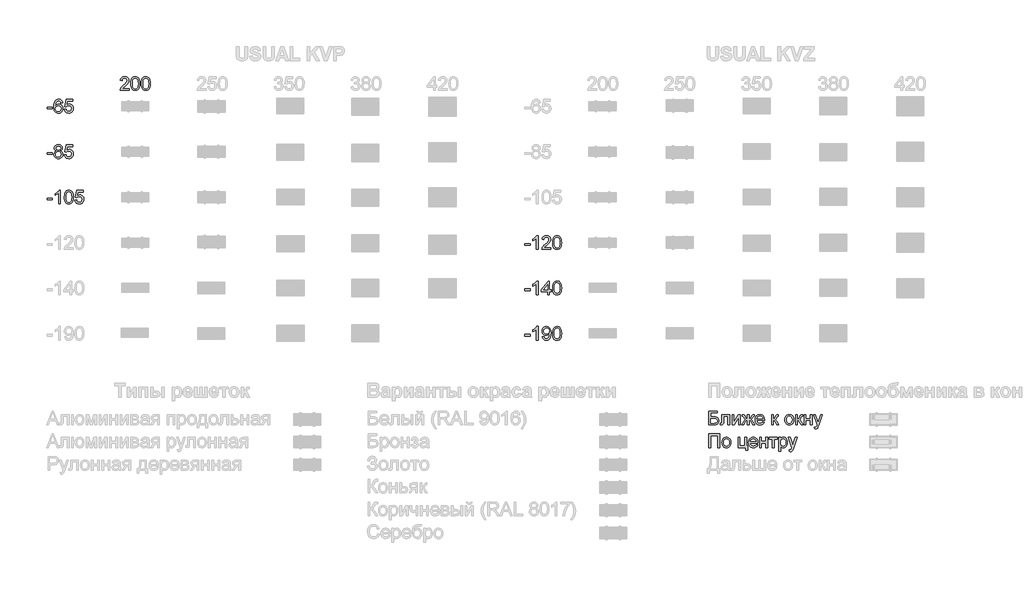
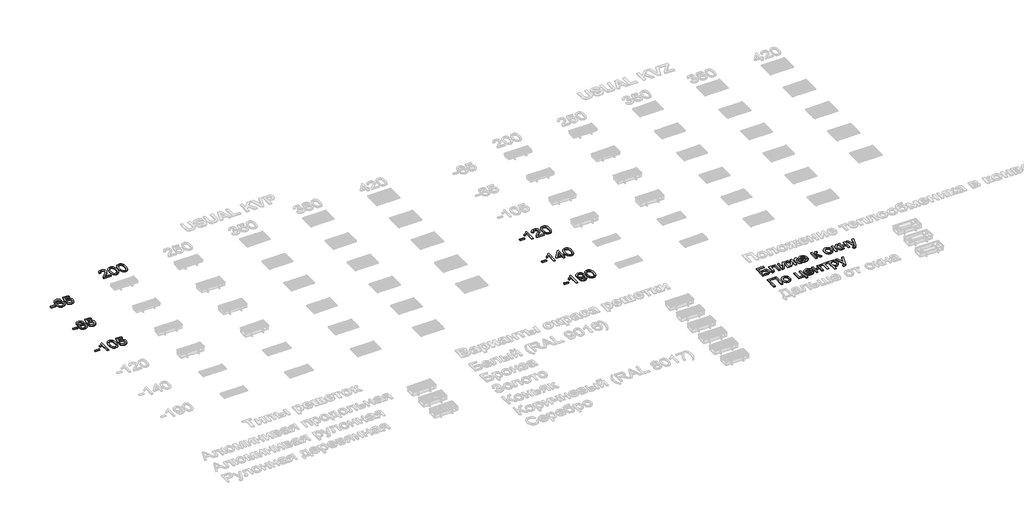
# One storey, part 8 of 12: 9 proxies.
"""IFC4 building model written with IfcOpenShell, lengths in millimetres."""

from ifc_helpers import new_model, si_unit, origin, origin_with_axes, place, context, project, spatial, polyline, outline, extrude, element, save

model = new_model("IFC4")

# Units and contexts
model_context = context("Model", 3, world=origin())
ifc_project = project(units=[si_unit("LENGTHUNIT", "METRE", prefix="MILLI")], contexts=[model_context])

# Site, building, storey
site = spatial("IfcSite", under=ifc_project)
building = spatial("IfcBuilding", under=site)
storey = spatial("IfcBuildingStorey", under=building, Name="Уровень 1", Elevation=0.0)

# Proxies
placement = place(None, origin())
element("IfcBuildingElementProxy", 1, Name="300", ObjectType="300", at=placement, inside=storey, context=model_context, shape_type="SweptSolid", body=[
    extrude(outline(polyline([(40.1853532, -5963.6447251), (40.1853532, -5925.9736087), (157.9075917, -5925.9736087), (157.9075917, -5963.6447251), (40.1853532, -5963.6447251)])), origin_with_axes(), (0.0, 0.0, 1.0), 20.0),
    extrude(outline(polyline([(383.9342895, -5831.795818), (346.2631732, -5836.5047075), (340.1931203, -5817.8346963), (331.9893518, -5805.0875851), (314.9012331, -5793.3337554), (294.2446591, -5789.4158121), (276.7334761, -5791.6966805), (260.2523628, -5798.5392856), (246.098103, -5812.9510628), (234.5374113, -5832.7890994), (226.7291159, -5860.8492985), (223.8320452, -5899.9275635), (238.9427982, -5882.2968189), (257.0517894, -5869.8716045), (277.1473434, -5862.5047675), (298.2177847, -5860.0491552), (316.3175788, -5861.7276168), (333.0194214, -5866.7630016), (348.3233124, -5875.1553096), (362.2292518, -5886.9045409), (373.785345, -5901.3117195), (382.0396973, -5917.6778698), (386.9923086, -5936.0029916), (388.6431791, -5956.2870851), (385.5345762, -5983.2620324), (376.2087676, -6008.2688111), (361.4383055, -6029.4772081), (341.9957421, -6045.0570106), (318.7639941, -6054.6311395), (292.6259783, -6057.8225158), (270.1690818, -6055.7071943), (249.8872875, -6049.3612299), (231.7805956, -6038.7846226), (215.8490059, -6023.9773723), (202.8604722, -6004.3140796), (193.5829482, -5979.1693452), (188.0164337, -5948.5431691), (186.1609289, -5912.4355513), (188.2210681, -5871.9547363), (194.4014856, -5837.4060184), (204.7021815, -5808.7893977), (219.1231557, -5786.1048742), (234.753542, -5771.0722962), (252.8763287, -5760.3347404), (273.4915161, -5753.892207), (296.5991039, -5751.7446958), (329.6533011, -5757.0605907), (356.1224107, -5773.0082752), (374.6636633, -5798.3369505), (383.9342895, -5831.795818)]), holes=[polyline([(223.8320452, -5955.698474), (226.011746, -5972.3911195), (232.5508485, -5988.3296069), (242.7043916, -6002.0332112), (255.7274142, -6012.0212074), (271.4451725, -6018.1188515), (289.6829224, -6020.1513995), (314.5425482, -6015.9391507), (334.0862792, -6003.3024041), (346.7506169, -5983.4367764), (350.9720628, -5957.5378839), (346.8057992, -5932.6782581), (334.3070084, -5913.7231383), (314.4321836, -5901.7209882), (288.137818, -5897.7202715), (263.3149804, -5901.7209882), (242.5572388, -5913.7231383), (228.5133436, -5932.2184056), (223.8320452, -5955.698474)])]), origin_with_axes(), (0.0, 0.0, 1.0), 20.0),
    extrude(outline(polyline([(421.6054058, -5973.0625041), (459.2765221, -5968.3536146), (466.1927037, -5990.9691602), (478.2592331, -6007.1651651), (495.4209282, -6016.9048409), (517.6226066, -6020.1513995), (544.625145, -6015.635648), (564.8586548, -6002.0883935), (577.4954013, -5981.0731346), (581.7076501, -5954.1533696), (577.7621157, -5928.8063001), (565.9255125, -5909.418919), (546.1058701, -5897.1132662), (518.2112178, -5893.011382), (499.9366797, -5894.6484569), (485.1386264, -5899.5596815), (463.9854117, -5916.5558297), (426.3142954, -5911.8469401), (459.2765221, -5756.4535854), (605.2520978, -5756.4535854), (605.2520978, -5794.1247017), (489.7371513, -5794.1247017), (473.62392, -5877.1188798), (500.5344879, -5860.7849192), (528.7326428, -5855.3402657), (547.0784581, -5857.0279243), (563.9297527, -5862.0909003), (579.2865268, -5870.5291935), (593.1487802, -5882.3428041), (604.6243992, -5896.8097636), (612.8212699, -5913.2081035), (617.7393923, -5931.5378239), (619.3787664, -5951.7989248), (613.4742604, -5989.4700411), (606.0936279, -6006.2638542), (595.7607424, -6021.6965039), (580.1073635, -6037.5016341), (561.8420224, -6048.7910128), (540.9647192, -6055.5646401), (517.4754538, -6057.8225158), (480.4757221, -6052.0191773), (464.7970513, -6044.7650043), (450.9991772, -6034.6091619), (439.5189597, -6022.0574881), (430.7932587, -6007.6158205), (421.6054058, -5973.0625041)])), origin_with_axes(), (0.0, 0.0, 1.0), 20.0),
])
element("IfcBuildingElementProxy", 2, Name="300", ObjectType="300", at=placement, inside=storey, context=model_context, shape_type="SweptSolid", body=[
    extrude(outline(polyline([(40.1853532, -6963.6447251), (40.1853532, -6925.9736087), (157.9075917, -6925.9736087), (157.9075917, -6963.6447251), (40.1853532, -6963.6447251)])), origin_with_axes(), (0.0, 0.0, 1.0), 20.0),
    extrude(outline(polyline([(245.7578121, -6887.1252701), (225.5886818, -6877.1924562), (211.434422, -6863.7279752), (203.0743037, -6847.0077385), (200.2875975, -6827.3076576), (201.8051108, -6811.9439858), (206.3576505, -6797.8587039), (213.9452166, -6785.051812), (224.5678092, -6773.5233099), (237.714992, -6763.9951663), (252.8763287, -6757.1893494), (289.241464, -6751.7446958), (325.8273284, -6757.3181081), (341.154212, -6764.2848733), (354.5037299, -6774.0383447), (365.3194606, -6785.7921745), (373.0449825, -6798.7600148), (377.6802956, -6812.9418657), (379.2254, -6828.3377272), (376.4754821, -6847.4032116), (368.2257283, -6863.8383398), (354.3841683, -6877.2200473), (334.8588314, -6887.1252701), (358.0445941, -6899.0722378), (374.9211806, -6916.6661943), (385.2126795, -6939.0610107), (388.6431791, -6965.4105586), (386.9417248, -6984.2001315), (381.8373622, -7001.426206), (373.330091, -7017.0887819), (361.4199114, -7031.1878594), (346.7322228, -7042.8405216), (329.8924244, -7051.1638517), (310.9005164, -7056.1578498), (289.7564988, -7057.8225158), (268.6124811, -7056.150952), (249.6205731, -7051.1362606), (232.7807748, -7042.7784415), (218.0930861, -7031.0774948), (206.1829065, -7016.879549), (197.6756354, -7001.0307328), (192.5712727, -6983.5310462), (190.8698185, -6964.380489), (194.4382738, -6937.0100686), (205.1436399, -6914.4956905), (222.4340936, -6897.6099069), (245.7578121, -6887.1252701)]), holes=[polyline([(237.9587138, -6828.4113036), (241.2972429, -6844.8556288), (251.3128303, -6857.989016), (267.7111702, -6866.5974547), (290.1979572, -6869.4669343), (312.1605123, -6866.6158488), (328.3105319, -6858.0625924), (338.2433457, -6845.3706636), (341.5542837, -6830.1035608), (338.1329811, -6814.2570439), (327.8690735, -6801.1512478), (311.4983247, -6792.349671), (289.7564988, -6789.4158121), (267.8767171, -6792.2852917), (251.5335595, -6800.8937304), (241.3524252, -6813.5120828), (237.9587138, -6828.4113036)]), polyline([(228.5409348, -6963.0561139), (234.8317169, -6991.4198157), (243.5413231, -7003.5875127), (257.0885776, -7012.6466068), (273.3121736, -7018.2752013), (290.0508044, -7020.1513995), (315.6921794, -7016.2058651), (334.9324078, -7004.3692619), (346.962149, -6986.4442117), (350.9720628, -6964.2333362), (346.8333903, -6941.6453817), (334.417373, -6923.3248584), (314.7356862, -6911.1847525), (288.8000056, -6907.1380506), (263.5173155, -6911.1295702), (244.4702252, -6923.1041292), (232.5232574, -6941.0751646), (228.5409348, -6963.0561139)])]), origin_with_axes(), (0.0, 0.0, 1.0), 20.0),
    extrude(outline(polyline([(421.6054058, -6973.0625041), (459.2765221, -6968.3536146), (466.1927037, -6990.9691602), (478.2592331, -7007.1651651), (495.4209282, -7016.9048409), (517.6226066, -7020.1513995), (544.625145, -7015.635648), (564.8586548, -7002.0883935), (577.4954013, -6981.0731346), (581.7076501, -6954.1533696), (577.7621157, -6928.8063001), (565.9255125, -6909.418919), (546.1058701, -6897.1132662), (518.2112178, -6893.011382), (499.9366797, -6894.6484569), (485.1386264, -6899.5596815), (463.9854117, -6916.5558297), (426.3142954, -6911.8469401), (459.2765221, -6756.4535854), (605.2520978, -6756.4535854), (605.2520978, -6794.1247017), (489.7371513, -6794.1247017), (473.62392, -6877.1188798), (500.5344879, -6860.7849192), (528.7326428, -6855.3402657), (547.0784581, -6857.0279243), (563.9297527, -6862.0909003), (579.2865268, -6870.5291935), (593.1487802, -6882.3428041), (604.6243992, -6896.8097636), (612.8212699, -6913.2081035), (617.7393923, -6931.5378239), (619.3787664, -6951.7989248), (613.4742604, -6989.4700411), (606.0936279, -7006.2638542), (595.7607424, -7021.6965039), (580.1073635, -7037.5016341), (561.8420224, -7048.7910128), (540.9647192, -7055.5646401), (517.4754538, -7057.8225158), (480.4757221, -7052.0191773), (464.7970513, -7044.7650043), (450.9991772, -7034.6091619), (439.5189597, -7022.0574881), (430.7932587, -7007.6158205), (421.6054058, -6973.0625041)])), origin_with_axes(), (0.0, 0.0, 1.0), 20.0),
])
element("IfcBuildingElementProxy", 3, Name="300", ObjectType="300", at=placement, inside=storey, context=model_context, shape_type="SweptSolid", body=[
    extrude(outline(polyline([(40.1853532, -7963.6447251), (40.1853532, -7925.9736087), (157.9075917, -7925.9736087), (157.9075917, -7963.6447251), (40.1853532, -7963.6447251)])), origin_with_axes(), (0.0, 0.0, 1.0), 20.0),
    extrude(outline(polyline([(332.1365046, -8053.1136263), (294.4653883, -8053.1136263), (294.4653883, -7818.2577606), (258.7808348, -7843.6784064), (219.1231557, -7862.6979056), (219.1231557, -7827.0869284), (248.7100652, -7810.9920912), (274.3422432, -7791.8438333), (294.5481618, -7771.4815649), (307.8562929, -7751.7446958), (332.1365046, -7751.7446958), (332.1365046, -8053.1136263)])), origin_with_axes(), (0.0, 0.0, 1.0), 20.0),
    extrude(outline(polyline([(421.6054058, -7904.8571822), (424.3737178, -7856.6186556), (432.6786539, -7818.147396), (446.4374405, -7788.8547921), (465.5673043, -7768.1522328), (490.2062009, -7755.8465801), (520.4920861, -7751.7446958), (543.70544, -7754.172717), (564.4907728, -7761.4567805), (581.873197, -7773.3117778), (594.8778256, -7789.4526003), (604.7002748, -7809.7412924), (612.5361613, -7834.0398982), (617.6681152, -7864.8960005), (619.3787664, -7904.8571822), (616.6380456, -7952.8197973), (608.415883, -7991.1990865), (594.7398698, -8020.5192815), (575.6375972, -8041.3046142), (550.9435183, -8053.6930404), (520.4920861, -8057.8225158), (499.7435416, -8056.0290911), (481.3494419, -8050.6488169), (465.3097869, -8041.6816933), (451.6245766, -8029.1277202), (438.4911894, -8006.4339996), (429.1101985, -7978.1576698), (423.481604, -7944.2987306), (421.6054058, -7904.8571822)]), holes=[polyline([(459.2765221, -7904.7836058), (463.6911061, -7964.0401982), (469.209336, -7984.3081969), (476.9348579, -7998.3359972), (496.6533329, -8014.6975489), (520.4920861, -8020.1513995), (544.3308394, -8014.6791548), (564.0493144, -7998.2624208), (571.7748363, -7984.2116278), (577.2930662, -7963.9482277), (581.7076501, -7904.7836058), (577.440219, -7846.8605857), (572.1059301, -7826.6592656), (564.6379256, -7812.2980722), (544.9562388, -7795.1363772), (520.0506277, -7789.4158121), (496.4693919, -7794.4557955), (477.5234691, -7809.5757455), (469.5404298, -7825.2107303), (463.8382589, -7846.2903686), (459.2765221, -7904.7836058)])]), origin_with_axes(), (0.0, 0.0, 1.0), 20.0),
    extrude(outline(polyline([(652.3409932, -7973.0625041), (690.0121095, -7968.3536146), (696.928291, -7990.9691602), (708.9948205, -8007.1651651), (726.1565155, -8016.9048409), (748.358194, -8020.1513995), (775.3607324, -8015.635648), (795.5942421, -8002.0883935), (808.2309887, -7981.0731346), (812.4432375, -7954.1533696), (808.4977031, -7928.8063001), (796.6610999, -7909.418919), (776.8414574, -7897.1132662), (748.9468051, -7893.011382), (730.672267, -7894.6484569), (715.8742138, -7899.5596815), (694.7209991, -7916.5558297), (657.0498827, -7911.8469401), (690.0121095, -7756.4535854), (835.9876852, -7756.4535854), (835.9876852, -7794.1247017), (720.4727387, -7794.1247017), (704.3595073, -7877.1188798), (731.2700753, -7860.7849192), (759.4682302, -7855.3402657), (777.8140455, -7857.0279243), (794.6653401, -7862.0909003), (810.0221141, -7870.5291935), (823.8843676, -7882.3428041), (835.3599865, -7896.8097636), (843.5568573, -7913.2081035), (848.4749797, -7931.5378239), (850.1143538, -7951.7989248), (844.2098478, -7989.4700411), (836.8292153, -8006.2638542), (826.4963297, -8021.6965039), (810.8429508, -8037.5016341), (792.5776098, -8048.7910128), (771.7003065, -8055.5646401), (748.2110412, -8057.8225158), (711.2113095, -8052.0191773), (695.5326387, -8044.7650043), (681.7347646, -8034.6091619), (670.2545471, -8022.0574881), (661.528846, -8007.6158205), (652.3409932, -7973.0625041)])), origin_with_axes(), (0.0, 0.0, 1.0), 20.0),
])
element("IfcBuildingElementProxy", 4, Name="300", ObjectType="300", at=placement, inside=storey, context=model_context, shape_type="SweptSolid", body=[
    extrude(outline(polyline([(1845.4054643, -5516.6857315), (1845.4054643, -5554.3568478), (1647.6321037, -5554.3568478), (1651.6788056, -5528.384379), (1660.967826, -5508.0864899), (1674.5610657, -5488.3956061), (1694.2243584, -5467.7850173), (1721.7235375, -5444.7280133), (1762.374498, -5408.6203954), (1786.7650742, -5381.9673449), (1798.9603624, -5360.3358836), (1803.0254584, -5339.2930334), (1799.1902886, -5320.4298841), (1787.6847792, -5304.7489141), (1769.9988523, -5294.1815038), (1747.62243, -5290.6590337), (1724.1239675, -5294.0987303), (1705.8678235, -5304.4178203), (1694.0864026, -5320.8069632), (1690.0121095, -5342.4568186), (1652.3409932, -5337.7479291), (1661.4736637, -5301.3092174), (1670.0200223, -5286.7732801), (1681.2197298, -5274.6929551), (1694.8152688, -5265.1970011), (1710.5491219, -5258.4141768), (1748.4317704, -5252.9879174), (1768.6215941, -5254.4962336), (1786.5903303, -5259.0211821), (1802.337979, -5266.562763), (1815.8645401, -5277.1209763), (1826.7285552, -5289.9140726), (1834.4885661, -5304.1603029), (1839.1445726, -5319.8596671), (1840.6965747, -5337.0121651), (1839.0227117, -5355.0291858), (1834.0011224, -5372.7335068), (1825.0891811, -5390.7413305), (1811.7442617, -5409.6688591), (1790.4714853, -5432.2660107), (1757.775973, -5461.282703), (1714.439474, -5497.5190796), (1697.4433258, -5516.6857315), (1845.4054643, -5516.6857315)])), origin_with_axes(), (0.0, 0.0, 1.0), 20.0),
    extrude(outline(polyline([(1883.0765806, -5406.1004038), (1885.8448926, -5357.8618772), (1894.1498286, -5319.3906175), (1907.9086153, -5290.0980136), (1927.038479, -5269.3954544), (1951.6773756, -5257.0898016), (1981.9632609, -5252.9879174), (2005.1766148, -5255.4159385), (2025.9619475, -5262.700002), (2043.3443718, -5274.5549993), (2056.3490003, -5290.6958219), (2066.1714496, -5310.9845139), (2074.0073361, -5335.2831197), (2079.1392899, -5366.139222), (2080.8499412, -5406.1004038), (2078.1092203, -5454.0630189), (2069.8870577, -5492.442308), (2056.2110446, -5521.7625031), (2037.108772, -5542.5478358), (2012.414693, -5554.936262), (1981.9632609, -5559.0657374), (1961.2147164, -5557.2723126), (1942.8206166, -5551.8920385), (1926.7809616, -5542.9249148), (1913.0957514, -5530.3709417), (1899.9623642, -5507.6772212), (1890.5813733, -5479.4008913), (1884.9527788, -5445.5419522), (1883.0765806, -5406.1004038)]), holes=[polyline([(1920.7476969, -5406.0268274), (1925.1622808, -5465.2834197), (1930.6805108, -5485.5514184), (1938.4060327, -5499.5792187), (1958.1245076, -5515.9407705), (1981.9632609, -5521.3946211), (2005.8020142, -5515.9223764), (2025.5204891, -5499.5056423), (2033.246011, -5485.4548494), (2038.7642409, -5465.1914492), (2043.1788249, -5406.0268274), (2038.9113937, -5348.1038072), (2033.5771048, -5327.9024872), (2026.1091003, -5313.5412938), (2006.4274136, -5296.3795987), (1981.5218025, -5290.6590337), (1957.9405666, -5295.699017), (1938.9946439, -5310.818967), (1931.0116046, -5326.4539518), (1925.3094336, -5347.5335901), (1920.7476969, -5406.0268274)])]), origin_with_axes(), (0.0, 0.0, 1.0), 20.0),
    extrude(outline(polyline([(2113.812168, -5406.1004038), (2116.58048, -5357.8618772), (2124.885416, -5319.3906175), (2138.6442026, -5290.0980136), (2157.7740664, -5269.3954544), (2182.412963, -5257.0898016), (2212.6988483, -5252.9879174), (2235.9122022, -5255.4159385), (2256.6975349, -5262.700002), (2274.0799592, -5274.5549993), (2287.0845877, -5290.6958219), (2296.907037, -5310.9845139), (2304.7429235, -5335.2831197), (2309.8748773, -5366.139222), (2311.5855286, -5406.1004038), (2308.8448077, -5454.0630189), (2300.6226451, -5492.442308), (2286.9466319, -5521.7625031), (2267.8443593, -5542.5478358), (2243.1502804, -5554.936262), (2212.6988483, -5559.0657374), (2191.9503037, -5557.2723126), (2173.556204, -5551.8920385), (2157.516549, -5542.9249148), (2143.8313388, -5530.3709417), (2130.6979515, -5507.6772212), (2121.3169607, -5479.4008913), (2115.6883661, -5445.5419522), (2113.812168, -5406.1004038)]), holes=[polyline([(2151.4832843, -5406.0268274), (2155.8978682, -5465.2834197), (2161.4160981, -5485.5514184), (2169.14162, -5499.5792187), (2188.860095, -5515.9407705), (2212.6988483, -5521.3946211), (2236.5376016, -5515.9223764), (2256.2560765, -5499.5056423), (2263.9815984, -5485.4548494), (2269.4998283, -5465.1914492), (2273.9144123, -5406.0268274), (2269.6469811, -5348.1038072), (2264.3126922, -5327.9024872), (2256.8446877, -5313.5412938), (2237.1630009, -5296.3795987), (2212.2573899, -5290.6590337), (2188.676154, -5295.699017), (2169.7302312, -5310.818967), (2161.7471919, -5326.4539518), (2156.045021, -5347.5335901), (2151.4832843, -5406.0268274)])]), origin_with_axes(), (0.0, 0.0, 1.0), 20.0),
])
element("IfcBuildingElementProxy", 5, Name="300", ObjectType="300", at=placement, inside=storey, context=model_context, shape_type="SweptSolid", body=[
    extrude(outline(polyline([(14601.8476281, -12613.7438159), (14790.2032096, -12613.7438159), (14790.2032096, -12651.4149322), (14639.5187444, -12651.4149322), (14639.5187444, -12740.8838335), (14710.078511, -12740.8838335), (14745.1560593, -12742.7968198), (14772.2505682, -12748.535779), (14793.0542951, -12759.5906329), (14809.2594969, -12777.4513038), (14819.6889515, -12800.4439285), (14823.1654364, -12826.8946439), (14820.6914299, -12849.1055194), (14813.2694107, -12869.8264728), (14800.9361668, -12887.9722522), (14783.7284865, -12902.4576057), (14757.1858005, -12911.9489612), (14716.8475398, -12915.1127464), (14601.8476281, -12915.1127464), (14601.8476281, -12613.7438159)]), holes=[polyline([(14639.5187444, -12877.4416301), (14720.2320541, -12877.4416301), (14748.7613028, -12874.3330272), (14769.1603595, -12865.0072186), (14781.4108299, -12849.4642043), (14785.4943201, -12827.7039843), (14783.1582694, -12811.4987824), (14776.1501174, -12798.1998483), (14764.9757018, -12788.3406108), (14750.1408603, -12782.4544989), (14693.3766685, -12778.5549498), (14639.5187444, -12778.5549498), (14639.5187444, -12877.4416301)])]), origin_with_axes(), (0.0, 0.0, 1.0), 20.0),
    extrude(outline(polyline([(14889.0898899, -12693.7949381), (15058.6099133, -12693.7949381), (15058.6099133, -12914.8920172), (15020.938797, -12914.8920172), (15020.938797, -12731.4660544), (14926.7610062, -12731.4660544), (14926.7610062, -12837.048187), (14924.2226204, -12885.7557632), (14919.4677457, -12896.783026), (14910.2798928, -12906.3203667), (14896.3371652, -12912.9146515), (14877.3176661, -12915.1127464), (14846.7098841, -12913.19976), (14846.7098841, -12877.4416301), (14863.5588794, -12877.4416301), (14880.5918158, -12875.1239735), (14887.3976327, -12867.7663336), (14889.0898899, -12834.9144714), (14889.0898899, -12693.7949381)])), origin_with_axes(), (0.0, 0.0, 1.0), 20.0),
    extrude(outline(polyline([(15115.1165877, -12693.7949381), (15152.787704, -12693.7949381), (15152.787704, -12862.5791975), (15245.346814, -12693.7949381), (15294.0543902, -12693.7949381), (15294.0543902, -12915.1127464), (15256.3832739, -12915.1127464), (15256.3832739, -12747.3585566), (15164.4127751, -12915.1127464), (15115.1165877, -12915.1127464), (15115.1165877, -12693.7949381)])), origin_with_axes(), (0.0, 0.0, 1.0), 20.0),
    extrude(outline(polyline([(15487.1188613, -12693.7949381), (15487.1188613, -12787.9727288), (15500.4085983, -12786.0321513), (15509.0814164, -12780.2104187), (15529.8667491, -12739.9273403), (15542.8345894, -12714.8193941), (15554.6619956, -12701.2997308), (15569.0277875, -12695.6711363), (15589.9050907, -12693.7949381), (15604.8410997, -12693.7949381), (15604.8410997, -12731.6867836), (15594.4668275, -12731.4660544), (15575.0426581, -12735.3656035), (15561.5781771, -12759.792968), (15545.9431923, -12786.5747773), (15523.6127552, -12800.1864111), (15536.0057799, -12805.4885103), (15548.2424548, -12814.8465086), (15572.2467549, -12845.7302021), (15614.2588788, -12915.1127464), (15571.0695326, -12915.1127464), (15529.7195963, -12846.6866953), (15518.416422, -12828.7248569), (15508.639958, -12818.2494171), (15498.7531294, -12813.2002367), (15487.1188613, -12811.5171765), (15487.1188613, -12915.1127464), (15449.447745, -12915.1127464), (15449.447745, -12811.5171765), (15437.9054474, -12813.1634485), (15428.0002246, -12818.1022643), (15418.1501842, -12828.5041277), (15406.7734335, -12846.5395425), (15365.4234973, -12915.1127464), (15322.3077274, -12915.1127464), (15364.1726985, -12845.7302021), (15388.3609397, -12814.8465086), (15400.6619939, -12805.4885103), (15413.1010038, -12800.1864111), (15398.7168178, -12792.975924), (15389.4094033, -12785.1768257), (15369.1023172, -12746.5492162), (15359.1695033, -12733.8204992), (15342.9091192, -12731.2453252), (15331.7255065, -12731.4660544), (15331.7255065, -12693.7949381), (15337.3908892, -12693.7949381), (15370.4266924, -12696.1493829), (15387.5699934, -12706.1557731), (15406.7734335, -12739.9273403), (15427.338037, -12779.9529014), (15436.0108551, -12785.967772), (15449.447745, -12787.9727288), (15449.447745, -12693.7949381), (15487.1188613, -12693.7949381)])), origin_with_axes(), (0.0, 0.0, 1.0), 20.0),
    extrude(outline(polyline([(15788.0463333, -12849.1882928), (15824.9816856, -12853.8971824), (15811.6735545, -12881.7274553), (15790.4375663, -12902.5311821), (15761.7519677, -12915.4990225), (15726.0950053, -12919.8216359), (15702.7207031, -12917.9569341), (15681.8939836, -12912.3628285), (15663.614847, -12903.0393192), (15647.8832932, -12889.9864061), (15635.232751, -12873.5673728), (15626.1966495, -12854.1455027), (15620.7749886, -12831.7207959), (15618.9677683, -12806.2932522), (15620.7933827, -12780.0034851), (15626.2702259, -12756.831518), (15635.3982979, -12736.7773507), (15648.1775988, -12719.8409833), (15663.8677658, -12706.3856994), (15681.7284367, -12696.7747822), (15701.7596113, -12691.008232), (15723.9612898, -12689.0860485), (15745.4478975, -12691.0036334), (15764.8789647, -12696.7563881), (15782.2544912, -12706.3443126), (15797.574477, -12719.7674069), (15810.0801656, -12736.6669861), (15819.0128003, -12756.6843652), (15824.3723811, -12779.8195441), (15826.158908, -12806.072523), (15825.9381788, -12816.2260661), (15656.6388846, -12816.2260661), (15663.159593, -12844.424221), (15678.3071342, -12865.1543714), (15700.1685217, -12877.9014826), (15726.8307693, -12882.1505196), (15746.8803381, -12880.1823509), (15763.7661216, -12874.2778449), (15777.4881201, -12864.0691195), (15788.0463333, -12849.1882928)]), holes=[polyline([(15656.6388846, -12778.5549498), (15788.4877917, -12778.5549498), (15783.3926261, -12758.6525338), (15773.4046299, -12744.4155006), (15751.4420748, -12731.1717488), (15723.814137, -12726.7571648), (15698.4210822, -12730.279635), (15677.4242174, -12740.8470453), (15662.8284992, -12757.3189616), (15656.6388846, -12778.5549498)])]), origin_with_axes(), (0.0, 0.0, 1.0), 20.0),
    extrude(outline(polyline([(15981.5522628, -12693.7949381), (16019.2233791, -12693.7949381), (16019.2233791, -12787.9727288), (16034.5456642, -12786.2804717), (16044.460084, -12781.2037001), (16053.2340695, -12767.9599483), (16065.1350521, -12741.7667503), (16082.3151413, -12707.7376657), (16097.4718795, -12696.6644176), (16125.0262409, -12693.7949381), (16132.236728, -12693.7949381), (16132.236728, -12731.6867836), (16122.0831849, -12731.4660544), (16103.6890852, -12735.4391799), (16090.7396389, -12760.2344264), (16075.5461125, -12787.0530239), (16054.245745, -12800.1864111), (16066.1835158, -12805.4885103), (16078.0109219, -12814.8465086), (16101.3346404, -12845.7302021), (16141.6545071, -12915.1127464), (16098.8330428, -12915.1127464), (16059.3225166, -12847.2017301), (16039.4568888, -12818.4701462), (16030.1678684, -12813.255419), (16019.2233791, -12811.5171765), (16019.2233791, -12915.1127464), (15981.5522628, -12915.1127464), (15981.5522628, -12693.7949381)])), origin_with_axes(), (0.0, 0.0, 1.0), 20.0),
    extrude(outline(polyline([(16273.5034142, -12804.4538422), (16275.5405607, -12775.7912363), (16281.6520003, -12751.0925588), (16291.8377331, -12730.3578099), (16306.0977589, -12713.5869894), (16320.4543538, -12702.8678278), (16336.3008707, -12695.2112838), (16353.6373098, -12690.6173573), (16372.4636709, -12689.0860485), (16393.2467043, -12690.9507504), (16412.0385765, -12696.544856), (16428.8392874, -12705.8683653), (16443.6488369, -12718.9212784), (16455.7360597, -12735.2621367), (16464.3697903, -12754.449482), (16469.5500286, -12776.4833143), (16471.2767748, -12801.3636335), (16468.2233542, -12839.4210259), (16459.0630925, -12868.391733), (16444.0627042, -12890.0875737), (16423.4889036, -12906.3203667), (16399.0523421, -12916.4463186), (16372.4636709, -12919.8216359), (16351.3771347, -12917.9638318), (16332.4105186, -12912.3904196), (16315.5638225, -12903.1013992), (16300.8370464, -12890.0967707), (16288.8785823, -12873.5972632), (16280.3368222, -12853.823606), (16275.2117662, -12830.775799), (16273.5034142, -12804.4538422)]), holes=[polyline([(16311.1745305, -12804.3802658), (16315.5339321, -12838.4737297), (16328.612137, -12862.7631385), (16348.2938238, -12877.3036743), (16372.4636709, -12882.1505196), (16396.5231533, -12877.2760832), (16416.1680519, -12862.6527739), (16429.2462568, -12838.0414684), (16433.6056585, -12803.2030434), (16429.2186657, -12770.1028609), (16416.0576873, -12746.144546), (16396.3851976, -12731.6040101), (16372.4636709, -12726.7571648), (16348.2938238, -12731.585616), (16328.612137, -12746.0709696), (16315.5339321, -12770.305196), (16311.1745305, -12804.3802658)])]), origin_with_axes(), (0.0, 0.0, 1.0), 20.0),
    extrude(outline(polyline([(16513.6567806, -12693.7949381), (16551.3278969, -12693.7949381), (16551.3278969, -12787.9727288), (16566.650182, -12786.2804717), (16576.5646018, -12781.2037001), (16585.3385874, -12767.9599483), (16597.2395699, -12741.7667503), (16614.4196591, -12707.7376657), (16629.5763973, -12696.6644176), (16657.1307587, -12693.7949381), (16664.3412458, -12693.7949381), (16664.3412458, -12731.6867836), (16654.1877028, -12731.4660544), (16635.793603, -12735.4391799), (16622.8441568, -12760.2344264), (16607.6506304, -12787.0530239), (16586.3502629, -12800.1864111), (16598.2880336, -12805.4885103), (16610.1154397, -12814.8465086), (16633.4391582, -12845.7302021), (16673.7590249, -12915.1127464), (16630.9375607, -12915.1127464), (16591.4270344, -12847.2017301), (16571.5614066, -12818.4701462), (16562.2723863, -12813.255419), (16551.3278969, -12811.5171765), (16551.3278969, -12915.1127464), (16513.6567806, -12915.1127464), (16513.6567806, -12693.7949381)])), origin_with_axes(), (0.0, 0.0, 1.0), 20.0),
    extrude(outline(polyline([(16697.3034726, -12693.7949381), (16734.9745889, -12693.7949381), (16734.9745889, -12778.5549498), (16833.8612692, -12778.5549498), (16833.8612692, -12693.7949381), (16871.5323855, -12693.7949381), (16871.5323855, -12915.1127464), (16833.8612692, -12915.1127464), (16833.8612692, -12816.2260661), (16734.9745889, -12816.2260661), (16734.9745889, -12915.1127464), (16697.3034726, -12915.1127464), (16697.3034726, -12693.7949381)])), origin_with_axes(), (0.0, 0.0, 1.0), 20.0),
    extrude(outline(polyline([(16928.03906, -12999.8727581), (16923.3301704, -12963.5995933), (16942.4600342, -12966.9105313), (16960.3390991, -12962.7534648), (16971.3019826, -12951.1651819), (16981.6026785, -12923.4268795), (16984.5457344, -12914.303406), (16904.4946123, -12693.7949381), (16944.2258678, -12693.7949381), (16986.67945, -12816.6675245), (17001.4683062, -12865.816559), (17016.2571624, -12822.4064836), (17059.887967, -12693.7949381), (17099.3249169, -12693.7949381), (17022.2904271, -12920.4102471), (17002.2776466, -12969.5592817), (16992.032133, -12985.2494488), (16980.4254561, -12996.1203617), (16966.942581, -13002.4663261), (16951.0684729, -13004.5816476), (16928.03906, -12999.8727581)])), origin_with_axes(), (0.0, 0.0, 1.0), 20.0),
])
element("IfcBuildingElementProxy", 6, Name="300", ObjectType="300", at=placement, inside=storey, context=model_context, shape_type="SweptSolid", body=[
    extrude(outline(polyline([(14601.8476281, -13113.7438159), (14837.292105, -13113.7438159), (14837.292105, -13415.1127464), (14799.6209887, -13415.1127464), (14799.6209887, -13151.4149322), (14639.5187444, -13151.4149322), (14639.5187444, -13415.1127464), (14601.8476281, -13415.1127464), (14601.8476281, -13113.7438159)])), origin_with_axes(), (0.0, 0.0, 1.0), 20.0),
    extrude(outline(polyline([(14889.0898899, -13304.4538422), (14891.1270365, -13275.7912363), (14897.2384761, -13251.0925588), (14907.4242088, -13230.3578099), (14921.6842347, -13213.5869894), (14936.0408295, -13202.8678278), (14951.8873465, -13195.2112838), (14969.2237855, -13190.6173573), (14988.0501466, -13189.0860485), (15008.8331801, -13190.9507504), (15027.6250522, -13196.544856), (15044.4257631, -13205.8683653), (15059.2353127, -13218.9212784), (15071.3225355, -13235.2621367), (15079.9562661, -13254.449482), (15085.1365044, -13276.4833143), (15086.8632505, -13301.3636335), (15083.8098299, -13339.4210259), (15074.6495683, -13368.391733), (15059.6491799, -13390.0875737), (15039.0753793, -13406.3203667), (15014.6388178, -13416.4463186), (14988.0501466, -13419.8216359), (14966.9636105, -13417.9638318), (14947.9969944, -13412.3904196), (14931.1502983, -13403.1013992), (14916.4235221, -13390.0967707), (14904.465058, -13373.5972632), (14895.923298, -13353.823606), (14890.7982419, -13330.775799), (14889.0898899, -13304.4538422)]), holes=[polyline([(14926.7610062, -13304.3802658), (14931.1204079, -13338.4737297), (14944.1986128, -13362.7631385), (14963.8802995, -13377.3036743), (14988.0501466, -13382.1505196), (15012.1096291, -13377.2760832), (15031.7545276, -13362.6527739), (15044.8327326, -13338.0414684), (15049.1921342, -13303.2030434), (15044.8051414, -13270.1028609), (15031.644163, -13246.144546), (15011.9716733, -13231.6040101), (14988.0501466, -13226.7571648), (14963.8802995, -13231.585616), (14944.1986128, -13246.0709696), (14931.1204079, -13270.305196), (14926.7610062, -13304.3802658)])]), origin_with_axes(), (0.0, 0.0, 1.0), 20.0),
    extrude(outline(polyline([(15246.9654948, -13193.7949381), (15284.6366111, -13193.7949381), (15284.6366111, -13377.4416301), (15392.9410705, -13377.4416301), (15392.9410705, -13193.7949381), (15430.6121868, -13193.7949381), (15430.6121868, -13377.4416301), (15454.1566345, -13377.4416301), (15454.1566345, -13476.3283104), (15416.4855182, -13476.3283104), (15416.4855182, -13415.1127464), (15246.9654948, -13415.1127464), (15246.9654948, -13193.7949381)])), origin_with_axes(), (0.0, 0.0, 1.0), 20.0),
    extrude(outline(polyline([(15642.0707576, -13349.1882928), (15679.0061099, -13353.8971824), (15665.6979788, -13381.7274553), (15644.4619906, -13402.5311821), (15615.776392, -13415.4990225), (15580.1194296, -13419.8216359), (15556.7451274, -13417.9569341), (15535.9184079, -13412.3628285), (15517.6392713, -13403.0393192), (15501.9077175, -13389.9864061), (15489.2571754, -13373.5673728), (15480.2210739, -13354.1455027), (15474.7994129, -13331.7207959), (15472.9921926, -13306.2932522), (15474.817807, -13280.0034851), (15480.2946503, -13256.831518), (15489.4227223, -13236.7773507), (15502.2020231, -13219.8409833), (15517.8921902, -13206.3856994), (15535.752861, -13196.7747822), (15555.7840357, -13191.008232), (15577.9857141, -13189.0860485), (15599.4723219, -13191.0036334), (15618.903389, -13196.7563881), (15636.2789155, -13206.3443126), (15651.5989013, -13219.7674069), (15664.1045899, -13236.6669861), (15673.0372246, -13256.6843652), (15678.3968054, -13279.8195441), (15680.1833323, -13306.072523), (15679.9626031, -13316.2260661), (15510.663309, -13316.2260661), (15517.1840173, -13344.424221), (15532.3315585, -13365.1543714), (15554.192946, -13377.9014826), (15580.8551936, -13382.1505196), (15600.9047624, -13380.1823509), (15617.7905459, -13374.2778449), (15631.5125444, -13364.0691195), (15642.0707576, -13349.1882928)]), holes=[polyline([(15510.663309, -13278.5549498), (15642.512216, -13278.5549498), (15637.4170504, -13258.6525338), (15627.4290542, -13244.4155006), (15605.4664991, -13231.1717488), (15577.8385613, -13226.7571648), (15552.4455066, -13230.279635), (15531.4486417, -13240.8470453), (15516.8529235, -13257.3189616), (15510.663309, -13278.5549498)])]), origin_with_axes(), (0.0, 0.0, 1.0), 20.0),
    extrude(outline(polyline([(15717.8544486, -13193.7949381), (15755.5255649, -13193.7949381), (15755.5255649, -13278.5549498), (15854.4122452, -13278.5549498), (15854.4122452, -13193.7949381), (15892.0833616, -13193.7949381), (15892.0833616, -13415.1127464), (15854.4122452, -13415.1127464), (15854.4122452, -13316.2260661), (15755.5255649, -13316.2260661), (15755.5255649, -13415.1127464), (15717.8544486, -13415.1127464), (15717.8544486, -13193.7949381)])), origin_with_axes(), (0.0, 0.0, 1.0), 20.0),
    extrude(outline(polyline([(15929.7544779, -13193.7949381), (16108.6922803, -13193.7949381), (16108.6922803, -13231.4660544), (16038.0589372, -13231.4660544), (16038.0589372, -13415.1127464), (16000.3878209, -13415.1127464), (16000.3878209, -13231.4660544), (15929.7544779, -13231.4660544), (15929.7544779, -13193.7949381)])), origin_with_axes(), (0.0, 0.0, 1.0), 20.0),
    extrude(outline(polyline([(16141.6545071, -13499.8727581), (16141.6545071, -13193.7949381), (16179.3256234, -13193.7949381), (16179.3256234, -13230.7302904), (16191.612882, -13212.5109346), (16205.3716686, -13199.497109), (16221.4113236, -13191.6888137), (16240.5411874, -13189.0860485), (16266.0170155, -13192.7280803), (16288.2922704, -13203.6541756), (16306.4288527, -13221.2021467), (16319.4886635, -13244.7098062), (16327.3797323, -13272.4665028), (16330.0100886, -13302.7615851), (16327.0394415, -13334.9788508), (16318.1275002, -13363.7932081), (16303.5593732, -13387.7423259), (16283.620169, -13405.3638735), (16260.3976181, -13416.2071953), (16235.9794506, -13419.8216359), (16218.6614057, -13417.4028118), (16203.2011649, -13410.1463394), (16189.9666101, -13399.192653), (16179.3256234, -13385.6821868), (16179.3256234, -13499.8727581), (16141.6545071, -13499.8727581)]), holes=[polyline([(16179.3256234, -13306.2196758), (16183.3999165, -13339.991243), (16195.6227958, -13363.6092671), (16213.6582106, -13377.5152065), (16235.1701103, -13382.1505196), (16257.0314978, -13377.3496596), (16275.5267651, -13362.9470795), (16288.1359205, -13338.4645327), (16292.3389723, -13303.4237726), (16288.2370881, -13269.8361465), (16275.9314353, -13245.8870286), (16257.9236117, -13231.5396308), (16236.7152146, -13226.7571648), (16215.4240442, -13231.8431334), (16196.7264418, -13247.1010392), (16183.675828, -13272.0526355), (16179.3256234, -13306.2196758)])]), origin_with_axes(), (0.0, 0.0, 1.0), 20.0),
    extrude(outline(polyline([(16372.3900945, -13499.8727581), (16367.6812049, -13463.5995933), (16386.8110687, -13466.9105313), (16404.6901336, -13462.7534648), (16415.6530171, -13451.1651819), (16425.953713, -13423.4268795), (16428.8967689, -13414.303406), (16348.8456468, -13193.7949381), (16388.5769022, -13193.7949381), (16431.0304845, -13316.6675245), (16445.8193407, -13365.816559), (16460.6081969, -13322.4064836), (16504.2390015, -13193.7949381), (16543.6759514, -13193.7949381), (16466.6414616, -13420.4102471), (16446.6286811, -13469.5592817), (16436.3831675, -13485.2494488), (16424.7764906, -13496.1203617), (16411.2936154, -13502.4663261), (16395.4195074, -13504.5816476), (16372.3900945, -13499.8727581)])), origin_with_axes(), (0.0, 0.0, 1.0), 20.0),
])
element("IfcBuildingElementProxy", 7, Name="300", ObjectType="300", at=placement, inside=storey, context=model_context, shape_type="SweptSolid", body=[
    extrude(outline(polyline([(10550.4611786, -8963.3123649), (10550.4611786, -8925.6412486), (10668.183417, -8925.6412486), (10668.183417, -8963.3123649), (10550.4611786, -8963.3123649)])), origin_with_axes(), (0.0, 0.0, 1.0), 20.0),
    extrude(outline(polyline([(10842.41233, -9052.7812662), (10804.7412137, -9052.7812662), (10804.7412137, -8817.9254004), (10769.0566601, -8843.3460463), (10729.398981, -8862.3655455), (10729.398981, -8826.7545683), (10758.9858905, -8810.659731), (10784.6180685, -8791.5114732), (10804.8239871, -8771.1492048), (10818.1321183, -8751.4123357), (10842.41233, -8751.4123357), (10842.41233, -9052.7812662)])), origin_with_axes(), (0.0, 0.0, 1.0), 20.0),
    extrude(outline(polyline([(11124.9457023, -9015.1101499), (11124.9457023, -9052.7812662), (10927.1723416, -9052.7812662), (10931.2190436, -9026.8087973), (10940.508064, -9006.5109082), (10954.1013037, -8986.8200244), (10973.7645963, -8966.2094356), (11001.2637755, -8943.1524316), (11041.9147359, -8907.0448138), (11066.3053122, -8880.3917632), (11078.5006004, -8858.7603019), (11082.5656964, -8837.7174518), (11078.7305266, -8818.8543025), (11067.2250172, -8803.1733324), (11049.5390903, -8792.6059221), (11027.1626679, -8789.083452), (11003.6642055, -8792.5231487), (10985.4080615, -8802.8422386), (10973.6266406, -8819.2313815), (10969.5523475, -8840.8812369), (10931.8812312, -8836.1723474), (10941.0139017, -8799.7336358), (10949.5602603, -8785.1976984), (10960.7599678, -8773.1173734), (10974.3555068, -8763.6214194), (10990.0893599, -8756.8385951), (11027.9720083, -8751.4123357), (11048.1618321, -8752.9206519), (11066.1305683, -8757.4456004), (11081.8782169, -8764.9871813), (11095.404778, -8775.5453946), (11106.2687932, -8788.338491), (11114.028804, -8802.5847212), (11118.6848106, -8818.2840854), (11120.2368127, -8835.4365834), (11118.5629496, -8853.4536041), (11113.5413604, -8871.1579251), (11104.6294191, -8889.1657488), (11091.2844997, -8908.0932775), (11070.0117233, -8930.690429), (11037.316211, -8959.7071214), (10993.979712, -8995.9434979), (10976.9835638, -9015.1101499), (11124.9457023, -9015.1101499)])), origin_with_axes(), (0.0, 0.0, 1.0), 20.0),
    extrude(outline(polyline([(11162.6168186, -8904.5248221), (11165.3851306, -8856.2862955), (11173.6900666, -8817.8150358), (11187.4488532, -8788.522432), (11206.578717, -8767.8198727), (11231.2176136, -8755.51422), (11261.5034989, -8751.4123357), (11284.7168528, -8753.8403569), (11305.5021855, -8761.1244204), (11322.8846098, -8772.9794177), (11335.8892383, -8789.1202402), (11345.7116876, -8809.4089323), (11353.5475741, -8833.707538), (11358.6795279, -8864.5636404), (11360.3901792, -8904.5248221), (11357.6494583, -8952.4874372), (11349.4272957, -8990.8667264), (11335.7512825, -9020.1869214), (11316.6490099, -9040.9722541), (11291.954931, -9053.3606803), (11261.5034989, -9057.4901557), (11240.7549543, -9055.696731), (11222.3608546, -9050.3164568), (11206.3211996, -9041.3493332), (11192.6359894, -9028.7953601), (11179.5026021, -9006.1016395), (11170.1216113, -8977.8253096), (11164.4930167, -8943.9663705), (11162.6168186, -8904.5248221)]), holes=[polyline([(11200.2879349, -8904.4512457), (11204.7025188, -8963.7078381), (11210.2207487, -8983.9758368), (11217.9462706, -8998.0036371), (11237.6647456, -9014.3651888), (11261.5034989, -9019.8190394), (11285.3422522, -9014.3467947), (11305.0607271, -8997.9300607), (11312.786249, -8983.8792677), (11318.3044789, -8963.6158676), (11322.7190629, -8904.4512457), (11318.4516317, -8846.5282256), (11313.1173428, -8826.3269055), (11305.6493383, -8811.9657121), (11285.9676515, -8794.804017), (11261.0620405, -8789.083452), (11237.4808046, -8794.1234354), (11218.5348818, -8809.2433854), (11210.5518425, -8824.8783702), (11204.8496716, -8845.9580085), (11200.2879349, -8904.4512457)])]), origin_with_axes(), (0.0, 0.0, 1.0), 20.0),
])
element("IfcBuildingElementProxy", 8, Name="300", ObjectType="300", at=placement, inside=storey, context=model_context, shape_type="SweptSolid", body=[
    extrude(outline(polyline([(10550.4611786, -9963.3123649), (10550.4611786, -9925.6412486), (10668.183417, -9925.6412486), (10668.183417, -9963.3123649), (10550.4611786, -9963.3123649)])), origin_with_axes(), (0.0, 0.0, 1.0), 20.0),
    extrude(outline(polyline([(10842.41233, -10052.7812662), (10804.7412137, -10052.7812662), (10804.7412137, -9817.9254004), (10769.0566601, -9843.3460463), (10729.398981, -9862.3655455), (10729.398981, -9826.7545683), (10758.9858905, -9810.659731), (10784.6180685, -9791.5114732), (10804.8239871, -9771.1492048), (10818.1321183, -9751.4123357), (10842.41233, -9751.4123357), (10842.41233, -10052.7812662)])), origin_with_axes(), (0.0, 0.0, 1.0), 20.0),
    extrude(outline(polyline([(11054.3123592, -10052.7812662), (11054.3123592, -9982.1479231), (10917.7545626, -9982.1479231), (10917.7545626, -9944.4768068), (11063.7301383, -9756.1212253), (11091.9834755, -9756.1212253), (11091.9834755, -9944.4768068), (11129.6545918, -9944.4768068), (11129.6545918, -9982.1479231), (11091.9834755, -9982.1479231), (11091.9834755, -10052.7812662), (11054.3123592, -10052.7812662)]), holes=[polyline([(11054.3123592, -9944.4768068), (11054.3123592, -9828.0789435), (10964.107694, -9944.4768068), (11054.3123592, -9944.4768068)])]), origin_with_axes(), (0.0, 0.0, 1.0), 20.0),
    extrude(outline(polyline([(11162.6168186, -9904.5248221), (11165.3851306, -9856.2862955), (11173.6900666, -9817.8150358), (11187.4488532, -9788.522432), (11206.578717, -9767.8198727), (11231.2176136, -9755.51422), (11261.5034989, -9751.4123357), (11284.7168528, -9753.8403569), (11305.5021855, -9761.1244204), (11322.8846098, -9772.9794177), (11335.8892383, -9789.1202402), (11345.7116876, -9809.4089323), (11353.5475741, -9833.707538), (11358.6795279, -9864.5636404), (11360.3901792, -9904.5248221), (11357.6494583, -9952.4874372), (11349.4272957, -9990.8667264), (11335.7512825, -10020.1869214), (11316.6490099, -10040.9722541), (11291.954931, -10053.3606803), (11261.5034989, -10057.4901557), (11240.7549543, -10055.696731), (11222.3608546, -10050.3164568), (11206.3211996, -10041.3493332), (11192.6359894, -10028.7953601), (11179.5026021, -10006.1016395), (11170.1216113, -9977.8253096), (11164.4930167, -9943.9663705), (11162.6168186, -9904.5248221)]), holes=[polyline([(11200.2879349, -9904.4512457), (11204.7025188, -9963.7078381), (11210.2207487, -9983.9758368), (11217.9462706, -9998.0036371), (11237.6647456, -10014.3651888), (11261.5034989, -10019.8190394), (11285.3422522, -10014.3467947), (11305.0607271, -9997.9300607), (11312.786249, -9983.8792677), (11318.3044789, -9963.6158676), (11322.7190629, -9904.4512457), (11318.4516317, -9846.5282256), (11313.1173428, -9826.3269055), (11305.6493383, -9811.9657121), (11285.9676515, -9794.804017), (11261.0620405, -9789.083452), (11237.4808046, -9794.1234354), (11218.5348818, -9809.2433854), (11210.5518425, -9824.8783702), (11204.8496716, -9845.9580085), (11200.2879349, -9904.4512457)])]), origin_with_axes(), (0.0, 0.0, 1.0), 20.0),
])
element("IfcBuildingElementProxy", 9, Name="300", ObjectType="300", at=placement, inside=storey, context=model_context, shape_type="SweptSolid", body=[
    extrude(outline(polyline([(10550.4611786, -10963.3123649), (10550.4611786, -10925.6412486), (10668.183417, -10925.6412486), (10668.183417, -10963.3123649), (10550.4611786, -10963.3123649)])), origin_with_axes(), (0.0, 0.0, 1.0), 20.0),
    extrude(outline(polyline([(10842.41233, -11052.7812662), (10804.7412137, -11052.7812662), (10804.7412137, -10817.9254004), (10769.0566601, -10843.3460463), (10729.398981, -10862.3655455), (10729.398981, -10826.7545683), (10758.9858905, -10810.659731), (10784.6180685, -10791.5114732), (10804.8239871, -10771.1492048), (10818.1321183, -10751.4123357), (10842.41233, -10751.4123357), (10842.41233, -11052.7812662)])), origin_with_axes(), (0.0, 0.0, 1.0), 20.0),
    extrude(outline(polyline([(10936.5901207, -10977.4390336), (10974.261237, -10972.730144), (10980.6991719, -10994.113285), (10991.1838088, -11008.6722149), (11005.4576302, -11017.0323333), (11023.2631188, -11019.8190394), (11039.2383944, -11018.0256147), (11053.7605362, -11012.6453405), (11065.8270656, -11004.266828), (11074.4355043, -10993.4786885), (11086.7595512, -10960.737191), (11092.2042047, -10917.0328099), (11091.9834755, -10909.67517), (11078.9328617, -10925.6044604), (11061.8539401, -10938.2228129), (11041.9791153, -10946.4449755), (11020.540792, -10949.1856963), (11002.6456322, -10947.5118332), (10986.1898107, -10942.490244), (10971.1733275, -10934.1209286), (10957.5961827, -10922.4038871), (10946.3458914, -10907.9507232), (10938.3099691, -10891.3730408), (10933.4884157, -10872.6708398), (10931.8812312, -10851.8441204), (10933.5665906, -10830.3230237), (10938.6226687, -10811.0092189), (10947.0494657, -10793.9027062), (10958.8469814, -10779.0034854), (10973.1828829, -10766.9323574), (10989.2248372, -10758.3101231), (11006.9728442, -10753.1367826), (11026.4269039, -10751.4123357), (11054.5238913, -10755.3486731), (11080.100887, -10767.1576851), (11101.4932251, -10786.2507607), (11117.0362394, -10812.0392885), (11126.5000037, -10847.6870539), (11129.6545918, -10896.3578418), (11126.5092007, -10947.9624887), (11117.0730276, -10987.850094), (11101.4288457, -11017.8232796), (11079.6594287, -11039.6846671), (11052.7028755, -11053.0387836), (11021.4972852, -11057.4901557), (10989.2892165, -11052.2386402), (10963.5926592, -11036.4840938), (10945.6216237, -11011.2197978), (10936.5901207, -10977.4390336)]), holes=[polyline([(11091.9834755, -10850.9612036), (11087.9183794, -10825.4301931), (11075.7230913, -10805.7852946), (11056.7955626, -10793.2589127), (11032.5337451, -10789.083452), (11007.3706166, -10793.5808094), (10987.2106833, -10807.0728816), (10973.9669314, -10827.7202586), (10969.5523475, -10853.6835304), (10973.7278081, -10876.9612636), (10986.2541901, -10895.4381368), (11005.9174827, -10907.4954692), (11031.5036755, -10911.51458), (11055.572355, -10907.4954692), (11074.9505391, -10895.4381368), (11087.7252414, -10876.2806819), (11091.9834755, -10850.9612036)])]), origin_with_axes(), (0.0, 0.0, 1.0), 20.0),
    extrude(outline(polyline([(11162.6168186, -10904.5248221), (11165.3851306, -10856.2862955), (11173.6900666, -10817.8150358), (11187.4488532, -10788.522432), (11206.578717, -10767.8198727), (11231.2176136, -10755.51422), (11261.5034989, -10751.4123357), (11284.7168528, -10753.8403569), (11305.5021855, -10761.1244204), (11322.8846098, -10772.9794177), (11335.8892383, -10789.1202402), (11345.7116876, -10809.4089323), (11353.5475741, -10833.707538), (11358.6795279, -10864.5636404), (11360.3901792, -10904.5248221), (11357.6494583, -10952.4874372), (11349.4272957, -10990.8667264), (11335.7512825, -11020.1869214), (11316.6490099, -11040.9722541), (11291.954931, -11053.3606803), (11261.5034989, -11057.4901557), (11240.7549543, -11055.696731), (11222.3608546, -11050.3164568), (11206.3211996, -11041.3493332), (11192.6359894, -11028.7953601), (11179.5026021, -11006.1016395), (11170.1216113, -10977.8253096), (11164.4930167, -10943.9663705), (11162.6168186, -10904.5248221)]), holes=[polyline([(11200.2879349, -10904.4512457), (11204.7025188, -10963.7078381), (11210.2207487, -10983.9758368), (11217.9462706, -10998.0036371), (11237.6647456, -11014.3651888), (11261.5034989, -11019.8190394), (11285.3422522, -11014.3467947), (11305.0607271, -10997.9300607), (11312.786249, -10983.8792677), (11318.3044789, -10963.6158676), (11322.7190629, -10904.4512457), (11318.4516317, -10846.5282256), (11313.1173428, -10826.3269055), (11305.6493383, -10811.9657121), (11285.9676515, -10794.804017), (11261.0620405, -10789.083452), (11237.4808046, -10794.1234354), (11218.5348818, -10809.2433854), (11210.5518425, -10824.8783702), (11204.8496716, -10845.9580085), (11200.2879349, -10904.4512457)])]), origin_with_axes(), (0.0, 0.0, 1.0), 20.0),
])

save(model, "model.ifc")
